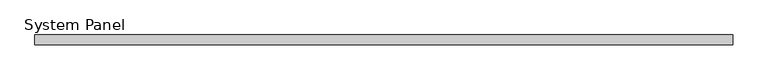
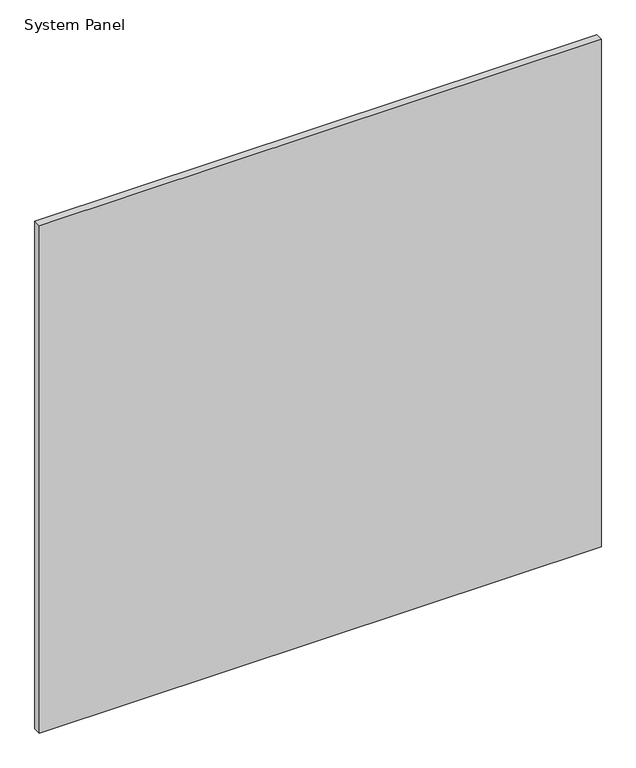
"""IFC4 building model written with IfcOpenShell, lengths in millimetres: plate geometry, System Panel : GUARDA-CORPO DE VIDRO TEMPERADO LAMINADO LISO 16 mm."""

from ifc_helpers import new_model, si_unit, origin, origin_with_axes, place, context, project, spatial, polyline, outline, extrude, source, transform, mapped, element, save


def system_panel_1b4e1b44(model_context):
    return source(origin(), model_context, "Body", "SweptSolid", [
        extrude(outline(polyline([(576.1904762, -8.0), (-576.1904762, -8.0), (-576.1904762, 8.0), (576.1904762, 8.0), (576.1904762, -8.0)])), origin_with_axes(), (0.0, 0.0, 1.0), 1100.0),
    ])


if __name__ == "__main__":
    model = new_model("IFC4")
    model_context = context("Model", 3, world=origin())
    ifc_project = project(units=[si_unit("LENGTHUNIT", "METRE", prefix="MILLI")], contexts=[model_context])
    site = spatial("IfcSite", under=ifc_project)
    building = spatial("IfcBuilding", under=site)
    placement = place(None, origin())
    system_panel_shape = system_panel_1b4e1b44(model_context)
    element("IfcPlate", 1, ObjectType="System Panel : GUARDA-CORPO DE VIDRO TEMPERADO LAMINADO LISO 16 mm", at=placement, inside=building, context=model_context, shape_type="MappedRepresentation", body=[
        mapped(system_panel_shape, transform((0.0, 0.0, 0.0), x_axis=(1.0, 0.0, 0.0), y_axis=(0.0, 1.0, 0.0), z_axis=(0.0, 0.0, 1.0))),
    ])
    save(model, "model.ifc")
